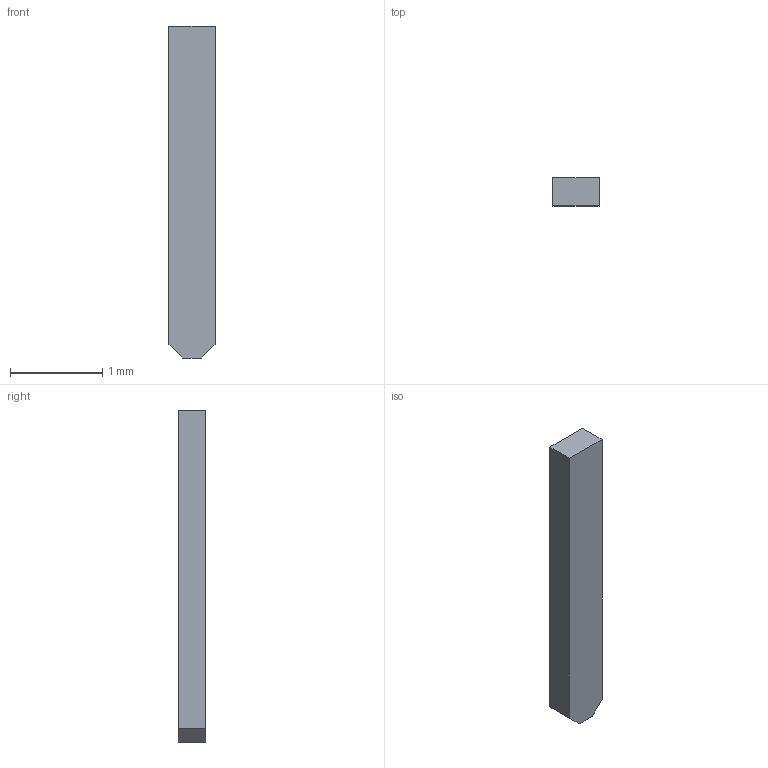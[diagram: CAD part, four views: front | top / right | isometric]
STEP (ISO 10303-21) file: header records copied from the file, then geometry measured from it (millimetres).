
FILE_DESCRIPTION(/* description */ ('STEP AP242 Edition 2','CAx-IF Rec.Pracs.---Representation and Presentation of Product Manufacturing Information (PMI)---4.0---2014-10-13','CAx-IF Rec.Pracs.---3D Tessellated Geometry---0.4---2014-09-14','2;1','CAx-IF Rec.Pracs.---User Defined Attributes---1.5---2016-08-15'),/* implementation_level */ '2;1');
FILE_NAME(/* name */ 'Part Studio 1 - Surface 7',/* time_stamp */ '2026-11-25T23:28:53Z',/* author */ (''),/* organization */ (''),/* preprocessor_version */ 'ST-DEVELOPER v20',/* originating_system */ 'ONSHAPE BY PTC INC, 1.224',/* authorisation */ ' ');
FILE_SCHEMA (('AP242_MANAGED_MODEL_BASED_3D_ENGINEERING_MIM_LF { 1 0 10303 442 3 1 4 }'));
Length unit declared in the file: metre
Products named in the file (1): SW_Slide_SPDT_Straight_CK_OS102011MS2Q
Bounding box: 0.5 x 0.3 x 3.6 mm (x, y, z)
Volume: 0.5 mm3; surface area: 6 mm2
Topology: 1 solids, 1 shells, 8 faces, 18 edges, 12 vertices
Faces by surface type: plane 8
Entity records: 235 total; most frequent: CARTESIAN_POINT 39, ORIENTED_EDGE 36, DIRECTION 36, EDGE_CURVE 18, LINE 18, VECTOR 18, VERTEX_POINT 12, AXIS2_PLACEMENT_3D 9
